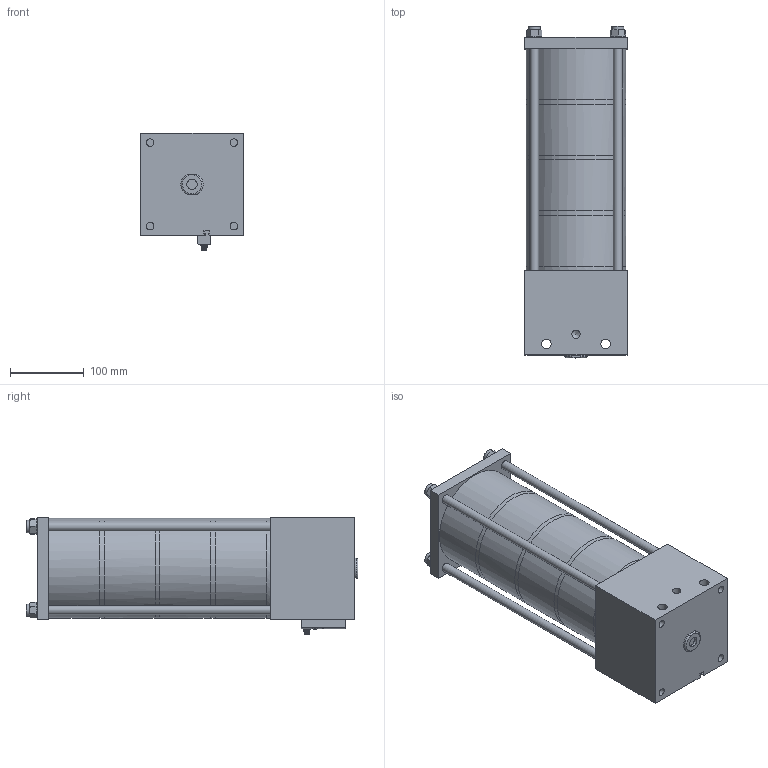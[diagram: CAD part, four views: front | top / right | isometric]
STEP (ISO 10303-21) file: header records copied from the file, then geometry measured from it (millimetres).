
FILE_DESCRIPTION((''),'2;1');
FILE_NAME('C:\VaultWork\Zeichnungen\Maßblätter\Multizylinder\M125\M125-40\M01826-3-0 Maßblatt Multizylinder M125-5-40 mit berührungsloser Abfrage.stp','2013-10-02T15:20:50',('Sergeew'),(''),'Autodesk Inventor 2012','Autodesk Inventor 2012','');
FILE_SCHEMA(('AUTOMOTIVE_DESIGN { 1 0 10303 214 1 1 1 1 }'));
Length unit declared in the file: millimetre
Products named in the file (1): M01826-3-0 Maßblatt Multizylinder M125-5-40 mit berührungsloser Abfrage
Bounding box: 138 x 448.9 x 158.7 mm (x, y, z)
Volume: 6879609.6 mm3; surface area: 318028 mm2
Topology: 6 solids, 6 shells, 199 faces, 497 edges, 330 vertices
Faces by surface type: plane 103, cylinder 62, cone 31, bspline 2, torus 1
Full cylindrical faces by diameter (mm): 1 x4, 3 x6, 4.6 x1, 5.8 x1, 6.5 x2, 6.9 x1, 8 x1, 9 x1, 10.106 x4, 11.445 x2, 12 x7, 13 x2, 13.835 x1, 16.6 x4, 135 x8
Entity records: 5721 total; most frequent: CARTESIAN_POINT 1364, DIRECTION 858, ORIENTED_EDGE 786, EDGE_CURVE 393, AXIS2_PLACEMENT_3D 343, EDGE_LOOP 320, VERTEX_POINT 303, FACE_OUTER_BOUND 199
